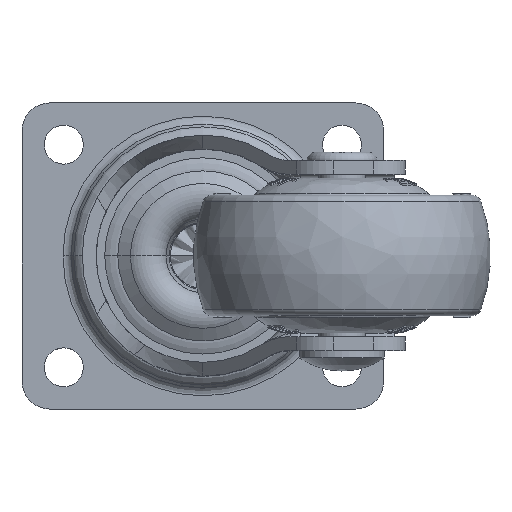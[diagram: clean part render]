
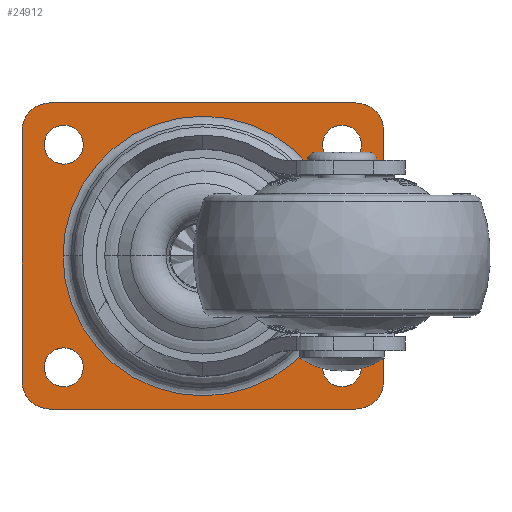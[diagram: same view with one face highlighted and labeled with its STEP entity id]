
A CAD part, top view. The second image highlights one B-rep face of the part: STEP entity #24912.
In plain terms, the highlighted planar face has unit normal (0, 0, 1).
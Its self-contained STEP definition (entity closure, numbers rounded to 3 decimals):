
#24203=CARTESIAN_POINT('',(15.,-12.,-2.5));
#24204=DIRECTION('',(0.,0.,-1.));
#24205=DIRECTION('',(1.,0.,0.));
#24206=AXIS2_PLACEMENT_3D('',#24203,#24204,#24205);
#24208=CARTESIAN_POINT('',(15.,-12.,-2.5));
#24209=DIRECTION('',(0.,0.,-1.));
#24210=DIRECTION('',(-1.,0.,0.));
#24211=AXIS2_PLACEMENT_3D('',#24208,#24209,#24210);
#24213=CARTESIAN_POINT('',(15.,12.,-2.5));
#24214=DIRECTION('',(0.,0.,-1.));
#24215=DIRECTION('',(-1.,0.,0.));
#24216=AXIS2_PLACEMENT_3D('',#24213,#24214,#24215);
#24218=CARTESIAN_POINT('',(15.,12.,-2.5));
#24219=DIRECTION('',(0.,0.,-1.));
#24220=DIRECTION('',(1.,0.,0.));
#24221=AXIS2_PLACEMENT_3D('',#24218,#24219,#24220);
#24223=CARTESIAN_POINT('',(-15.,-12.,-2.5));
#24224=DIRECTION('',(0.,0.,-1.));
#24225=DIRECTION('',(-1.,0.,0.));
#24226=AXIS2_PLACEMENT_3D('',#24223,#24224,#24225);
#24228=CARTESIAN_POINT('',(-15.,-12.,-2.5));
#24229=DIRECTION('',(0.,0.,-1.));
#24230=DIRECTION('',(1.,0.,0.));
#24231=AXIS2_PLACEMENT_3D('',#24228,#24229,#24230);
#24233=CARTESIAN_POINT('',(-15.,12.,-2.5));
#24234=DIRECTION('',(0.,0.,-1.));
#24235=DIRECTION('',(1.,0.,0.));
#24236=AXIS2_PLACEMENT_3D('',#24233,#24234,#24235);
#24238=CARTESIAN_POINT('',(-15.,12.,-2.5));
#24239=DIRECTION('',(0.,0.,-1.));
#24240=DIRECTION('',(-1.,0.,0.));
#24241=AXIS2_PLACEMENT_3D('',#24238,#24239,#24240);
#24243=CARTESIAN_POINT('',(-16.5,13.5,-2.5));
#24244=DIRECTION('',(0.,0.,1.));
#24245=DIRECTION('',(0.,1.,0.));
#24246=AXIS2_PLACEMENT_3D('',#24243,#24244,#24245);
#24248=DIRECTION('',(-1.,0.,0.));
#24249=VECTOR('',#24248,33.);
#24250=CARTESIAN_POINT('',(16.5,16.5,-2.5));
#24251=LINE('',#24250,#24249);
#24252=CARTESIAN_POINT('',(16.5,13.5,-2.5));
#24253=DIRECTION('',(0.,0.,1.));
#24254=DIRECTION('',(1.,0.,0.));
#24255=AXIS2_PLACEMENT_3D('',#24252,#24253,#24254);
#24257=DIRECTION('',(0.,1.,0.));
#24258=VECTOR('',#24257,27.);
#24259=CARTESIAN_POINT('',(19.5,-13.5,-2.5));
#24260=LINE('',#24259,#24258);
#24261=CARTESIAN_POINT('',(16.5,-13.5,-2.5));
#24262=DIRECTION('',(0.,0.,1.));
#24263=DIRECTION('',(0.,-1.,0.));
#24264=AXIS2_PLACEMENT_3D('',#24261,#24262,#24263);
#24266=DIRECTION('',(1.,0.,0.));
#24267=VECTOR('',#24266,33.);
#24268=CARTESIAN_POINT('',(-16.5,-16.5,-2.5));
#24269=LINE('',#24268,#24267);
#24270=CARTESIAN_POINT('',(-16.5,-13.5,-2.5));
#24271=DIRECTION('',(0.,0.,1.));
#24272=DIRECTION('',(-1.,0.,0.));
#24273=AXIS2_PLACEMENT_3D('',#24270,#24271,#24272);
#24275=DIRECTION('',(0.,-1.,0.));
#24276=VECTOR('',#24275,27.);
#24277=CARTESIAN_POINT('',(-19.5,13.5,-2.5));
#24278=LINE('',#24277,#24276);
#24279=CARTESIAN_POINT('',(0.,0.,-2.5));
#24280=DIRECTION('',(0.,0.,-1.));
#24281=DIRECTION('',(1.,0.,0.));
#24282=AXIS2_PLACEMENT_3D('',#24279,#24280,#24281);
#24284=CARTESIAN_POINT('',(0.,0.,-2.5));
#24285=DIRECTION('',(0.,0.,-1.));
#24286=DIRECTION('',(-1.,0.,0.));
#24287=AXIS2_PLACEMENT_3D('',#24284,#24285,#24286);
#24747=CARTESIAN_POINT('',(17.1,-12.,-2.5));
#24748=CARTESIAN_POINT('',(12.9,-12.,-2.5));
#24749=VERTEX_POINT('',#24747);
#24750=VERTEX_POINT('',#24748);
#24751=CARTESIAN_POINT('',(12.9,12.,-2.5));
#24752=CARTESIAN_POINT('',(17.1,12.,-2.5));
#24753=VERTEX_POINT('',#24751);
#24754=VERTEX_POINT('',#24752);
#24755=CARTESIAN_POINT('',(-17.1,-12.,-2.5));
#24756=CARTESIAN_POINT('',(-12.9,-12.,-2.5));
#24757=VERTEX_POINT('',#24755);
#24758=VERTEX_POINT('',#24756);
#24759=CARTESIAN_POINT('',(-12.9,12.,-2.5));
#24760=CARTESIAN_POINT('',(-17.1,12.,-2.5));
#24761=VERTEX_POINT('',#24759);
#24762=VERTEX_POINT('',#24760);
#24803=CARTESIAN_POINT('',(-16.5,16.5,-2.5));
#24804=VERTEX_POINT('',#24803);
#24805=CARTESIAN_POINT('',(-19.5,13.5,-2.5));
#24806=VERTEX_POINT('',#24805);
#24811=CARTESIAN_POINT('',(19.5,13.5,-2.5));
#24812=VERTEX_POINT('',#24811);
#24813=CARTESIAN_POINT('',(16.5,16.5,-2.5));
#24814=VERTEX_POINT('',#24813);
#24819=CARTESIAN_POINT('',(16.5,-16.5,-2.5));
#24820=VERTEX_POINT('',#24819);
#24821=CARTESIAN_POINT('',(19.5,-13.5,-2.5));
#24822=VERTEX_POINT('',#24821);
#24827=CARTESIAN_POINT('',(-19.5,-13.5,-2.5));
#24828=VERTEX_POINT('',#24827);
#24829=CARTESIAN_POINT('',(-16.5,-16.5,-2.5));
#24830=VERTEX_POINT('',#24829);
#24855=CARTESIAN_POINT('',(15.077,0.,-2.5));
#24856=CARTESIAN_POINT('',(-15.077,0.,-2.5));
#24857=VERTEX_POINT('',#24855);
#24858=VERTEX_POINT('',#24856);
#24859=CARTESIAN_POINT('',(0.,0.,-2.5));
#24860=DIRECTION('',(0.,0.,1.));
#24861=DIRECTION('',(-1.,0.,0.));
#24862=AXIS2_PLACEMENT_3D('',#24859,#24860,#24861);
#24863=PLANE('',#24862);
#24865=ORIENTED_EDGE('',*,*,#24864,.F.);
#24867=ORIENTED_EDGE('',*,*,#24866,.F.);
#24869=ORIENTED_EDGE('',*,*,#24868,.F.);
#24871=ORIENTED_EDGE('',*,*,#24870,.F.);
#24873=ORIENTED_EDGE('',*,*,#24872,.F.);
#24875=ORIENTED_EDGE('',*,*,#24874,.F.);
#24877=ORIENTED_EDGE('',*,*,#24876,.F.);
#24879=ORIENTED_EDGE('',*,*,#24878,.F.);
#24880=EDGE_LOOP('',(#24865,#24867,#24869,#24871,#24873,#24875,#24877,#24879));
#24881=FACE_OUTER_BOUND('',#24880,.F.);
#24883=ORIENTED_EDGE('',*,*,#24882,.F.);
#24885=ORIENTED_EDGE('',*,*,#24884,.F.);
#24886=EDGE_LOOP('',(#24883,#24885));
#24887=FACE_BOUND('',#24886,.F.);
#24889=ORIENTED_EDGE('',*,*,#24888,.F.);
#24891=ORIENTED_EDGE('',*,*,#24890,.F.);
#24892=EDGE_LOOP('',(#24889,#24891));
#24893=FACE_BOUND('',#24892,.F.);
#24895=ORIENTED_EDGE('',*,*,#24894,.F.);
#24897=ORIENTED_EDGE('',*,*,#24896,.F.);
#24898=EDGE_LOOP('',(#24895,#24897));
#24899=FACE_BOUND('',#24898,.F.);
#24901=ORIENTED_EDGE('',*,*,#24900,.F.);
#24903=ORIENTED_EDGE('',*,*,#24902,.F.);
#24904=EDGE_LOOP('',(#24901,#24903));
#24905=FACE_BOUND('',#24904,.F.);
#24907=ORIENTED_EDGE('',*,*,#24906,.F.);
#24909=ORIENTED_EDGE('',*,*,#24908,.F.);
#24910=EDGE_LOOP('',(#24907,#24909));
#24911=FACE_BOUND('',#24910,.F.);
#24207=CIRCLE('',#24206,2.1);
#24212=CIRCLE('',#24211,2.1);
#24217=CIRCLE('',#24216,2.1);
#24222=CIRCLE('',#24221,2.1);
#24227=CIRCLE('',#24226,2.1);
#24232=CIRCLE('',#24231,2.1);
#24237=CIRCLE('',#24236,2.1);
#24242=CIRCLE('',#24241,2.1);
#24247=CIRCLE('',#24246,3.);
#24256=CIRCLE('',#24255,3.);
#24265=CIRCLE('',#24264,3.);
#24274=CIRCLE('',#24273,3.);
#24283=CIRCLE('',#24282,15.077);
#24288=CIRCLE('',#24287,15.077);
#24864=EDGE_CURVE('',#24804,#24806,#24247,.T.);
#24866=EDGE_CURVE('',#24814,#24804,#24251,.T.);
#24868=EDGE_CURVE('',#24812,#24814,#24256,.T.);
#24870=EDGE_CURVE('',#24822,#24812,#24260,.T.);
#24872=EDGE_CURVE('',#24820,#24822,#24265,.T.);
#24874=EDGE_CURVE('',#24830,#24820,#24269,.T.);
#24876=EDGE_CURVE('',#24828,#24830,#24274,.T.);
#24878=EDGE_CURVE('',#24806,#24828,#24278,.T.);
#24882=EDGE_CURVE('',#24753,#24754,#24217,.T.);
#24884=EDGE_CURVE('',#24754,#24753,#24222,.T.);
#24888=EDGE_CURVE('',#24757,#24758,#24227,.T.);
#24890=EDGE_CURVE('',#24758,#24757,#24232,.T.);
#24894=EDGE_CURVE('',#24761,#24762,#24237,.T.);
#24896=EDGE_CURVE('',#24762,#24761,#24242,.T.);
#24900=EDGE_CURVE('',#24749,#24750,#24207,.T.);
#24902=EDGE_CURVE('',#24750,#24749,#24212,.T.);
#24906=EDGE_CURVE('',#24857,#24858,#24283,.T.);
#24908=EDGE_CURVE('',#24858,#24857,#24288,.T.);
#24912=ADVANCED_FACE('',(#24881,#24887,#24893,#24899,#24905,#24911),#24863,.T.);
